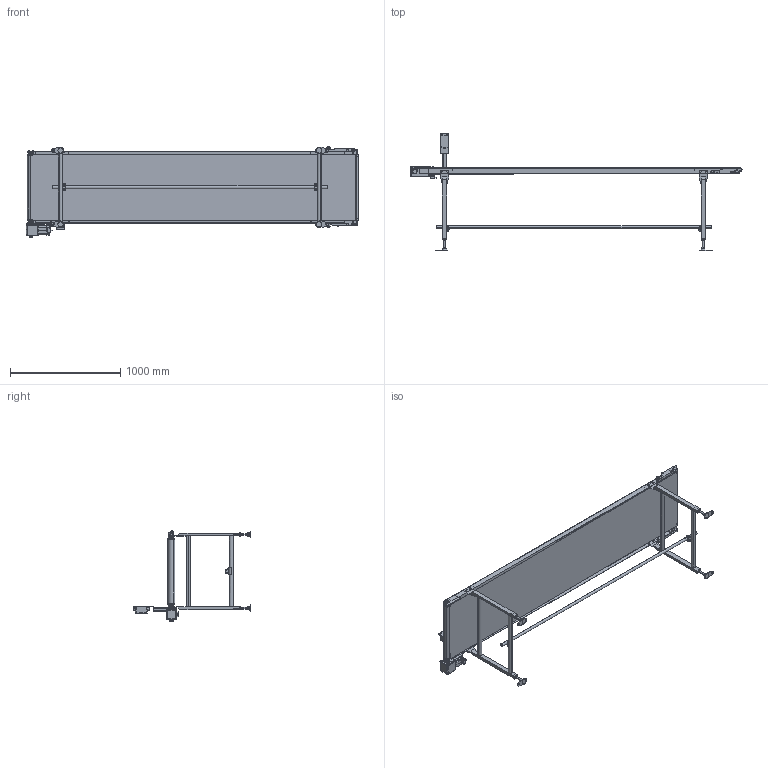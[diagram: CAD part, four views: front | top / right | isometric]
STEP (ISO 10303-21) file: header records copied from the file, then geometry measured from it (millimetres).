
FILE_DESCRIPTION( (''), '2;1');
FILE_NAME ('FB21-HS-306-600-300-R-K-100.stp','2025-02-17T09:39:58',(''),(''),'spGate 20.6.2 (****-****-****-****)','','');
FILE_SCHEMA (('AUTOMOTIVE_DESIGN'));
Length unit declared in the file: millimetre
Products named in the file (45): NewModel; FB21-HS-600-3000-R; TEMP_X_T-prt0; TEMP_X_T-prt1; TEMP_X_T-prt2; TEMP_X_T-prt3; TEMP_X_T-prt4; TEMP_X_T-prt5; TEMP_X_T-prt6; TEMP_X_T-prt7; TEMP_X_T-prt8; TEMP_X_T-prt9; TEMP_X_T-prt10; TEMP_X_T-prt11; TEMP_X_T-prt12; TEMP_X_T-prt13; TEMP_X_T-prt14; TEMP_X_T-prt15; TEMP_X_T-prt16; TEMP_X_T-prt17; TEMP_X_T-prt18; TEMP_X_T-prt19; TEMP_X_T-prt20; TEMP_X_T-prt21; TEMP_X_T-prt22; TEMP_X_T-prt23; TEMP_X_T-prt24; TEMP_X_T-prt25; TEMP_X_T-prt26; TEMP_X_T-prt27; TEMP_X_T-prt28; TEMP_X_T-prt29; TEMP_X_T-prt30; TEMP_X_T-prt31; TEMP_X_T-prt32; TEMP_X_T-prt33; TEMP_X_T-prt34; TEMP_X_T-prt35; TEMP_X_T-prt36; TEMP_X_T-prt37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
Assembly tree (44 placements, depth 3):
  NewModel
    FB21-HS-600-3000-R
      TEMP_X_T-prt0
      TEMP_X_T-prt1
      TEMP_X_T-prt2
      TEMP_X_T-prt3
      TEMP_X_T-prt4
      TEMP_X_T-prt5
      TEMP_X_T-prt6
      TEMP_X_T-prt7
      TEMP_X_T-prt8
      TEMP_X_T-prt9
      TEMP_X_T-prt10
      TEMP_X_T-prt11
      TEMP_X_T-prt12
      TEMP_X_T-prt13
      TEMP_X_T-prt14
      TEMP_X_T-prt15
      TEMP_X_T-prt16
      TEMP_X_T-prt17
      TEMP_X_T-prt18
      TEMP_X_T-prt19
      TEMP_X_T-prt20
      TEMP_X_T-prt21
      TEMP_X_T-prt22
      TEMP_X_T-prt23
      TEMP_X_T-prt24
      TEMP_X_T-prt25
      TEMP_X_T-prt26
      TEMP_X_T-prt27
      TEMP_X_T-prt28
      TEMP_X_T-prt29
      TEMP_X_T-prt30
      TEMP_X_T-prt31
      TEMP_X_T-prt32
      TEMP_X_T-prt33
      TEMP_X_T-prt34
      TEMP_X_T-prt35
      TEMP_X_T-prt36
      TEMP_X_T-prt37
      TEMP_X_T-prt38
      TEMP_X_T-prt39
      TEMP_X_T-prt40
      TEMP_X_T-prt41
      TEMP_X_T-prt42
Bounding box: 3016.29 x 1069.5 x 818.5 mm (x, y, z)
Volume: 23908285.3 mm3; surface area: 13620145.4 mm2
Topology: 43 solids, 43 shells, 1843 faces, 4546 edges, 2963 vertices
Faces by surface type: plane 1087, cylinder 622, bspline 132, sphere 2
Entity records: 95138 total; most frequent: CARTESIAN_POINT 13498, ORIENTED_EDGE 9084, DIRECTION 9014, COLOUR_RGB 6428, PRESENTATION_STYLE_ASSIGNMENT 6428, STYLED_ITEM 6428, EDGE_CURVE 4542, DRAUGHTING_PRE_DEFINED_CURVE_FONT 4542
